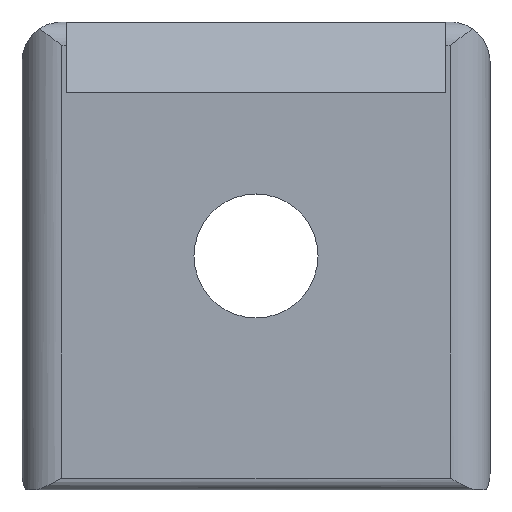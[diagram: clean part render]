
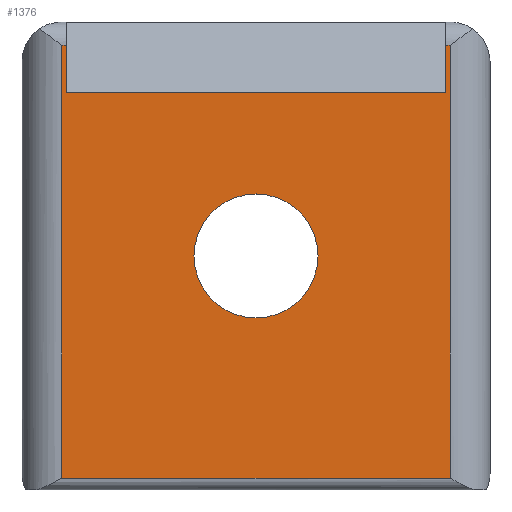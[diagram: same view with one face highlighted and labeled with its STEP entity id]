
A CAD part, top view. The second image highlights one B-rep face of the part: STEP entity #1376.
In plain terms, the highlighted planar face has unit normal (0, 0, 1).
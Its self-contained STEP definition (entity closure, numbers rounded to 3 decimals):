
#2 = FACE_BOUND ( 'NONE', #256, .T. ) ;
#21 = DIRECTION ( 'NONE',  ( -1., 0., 0. ) ) ;
#25 = VECTOR ( 'NONE', #1019, 1000. ) ;
#51 = VERTEX_POINT ( 'NONE', #197 ) ;
#64 = VERTEX_POINT ( 'NONE', #1162 ) ;
#71 = VERTEX_POINT ( 'NONE', #452 ) ;
#75 = ORIENTED_EDGE ( 'NONE', *, *, #799, .T. ) ;
#114 = CARTESIAN_POINT ( 'NONE',  ( -8.1, -3., 0. ) ) ;
#152 = CARTESIAN_POINT ( 'NONE',  ( 8.3, -1., 0. ) ) ;
#155 = ORIENTED_EDGE ( 'NONE', *, *, #1293, .T. ) ;
#172 = VERTEX_POINT ( 'NONE', #1102 ) ;
#190 = EDGE_CURVE ( 'NONE', #827, #298, #478, .T. ) ;
#197 = CARTESIAN_POINT ( 'NONE',  ( -2.65, -10., 0. ) ) ;
#212 = VECTOR ( 'NONE', #1499, 1000. ) ;
#225 = VERTEX_POINT ( 'NONE', #1245 ) ;
#256 = EDGE_LOOP ( 'NONE', ( #75, #1187 ) ) ;
#292 = CARTESIAN_POINT ( 'NONE',  ( 8.1, -3., 0. ) ) ;
#298 = VERTEX_POINT ( 'NONE', #386 ) ;
#306 = EDGE_CURVE ( 'NONE', #929, #225, #1119, .T. ) ;
#316 = ORIENTED_EDGE ( 'NONE', *, *, #945, .T. ) ;
#337 = AXIS2_PLACEMENT_3D ( 'NONE', #888, #1216, #21 ) ;
#386 = CARTESIAN_POINT ( 'NONE',  ( -8.3, -19.5, 0. ) ) ;
#414 = LINE ( 'NONE', #453, #1101 ) ;
#439 = AXIS2_PLACEMENT_3D ( 'NONE', #1025, #1034, #1393 ) ;
#452 = CARTESIAN_POINT ( 'NONE',  ( -8.3, -1., 0. ) ) ;
#453 = CARTESIAN_POINT ( 'NONE',  ( 8.3, -19.5, 0. ) ) ;
#464 = LINE ( 'NONE', #114, #1399 ) ;
#478 = LINE ( 'NONE', #976, #987 ) ;
#482 = ORIENTED_EDGE ( 'NONE', *, *, #1262, .T. ) ;
#493 = EDGE_CURVE ( 'NONE', #71, #298, #788, .T. ) ;
#528 = LINE ( 'NONE', #1016, #212 ) ;
#560 = DIRECTION ( 'NONE',  ( -1., 0., 0. ) ) ;
#562 = DIRECTION ( 'NONE',  ( 0., -1., 0. ) ) ;
#583 = DIRECTION ( 'NONE',  ( 0., 0., 1. ) ) ;
#611 = ORIENTED_EDGE ( 'NONE', *, *, #791, .T. ) ;
#670 = VECTOR ( 'NONE', #1133, 1000. ) ;
#787 = ORIENTED_EDGE ( 'NONE', *, *, #306, .T. ) ;
#788 = LINE ( 'NONE', #1055, #1213 ) ;
#791 = EDGE_CURVE ( 'NONE', #872, #71, #1165, .T. ) ;
#799 = EDGE_CURVE ( 'NONE', #172, #51, #1206, .T. ) ;
#807 = ORIENTED_EDGE ( 'NONE', *, *, #190, .F. ) ;
#827 = VERTEX_POINT ( 'NONE', #1501 ) ;
#830 = DIRECTION ( 'NONE',  ( -1., 0., 0. ) ) ;
#842 = ORIENTED_EDGE ( 'NONE', *, *, #493, .T. ) ;
#855 = VECTOR ( 'NONE', #560, 1000. ) ;
#872 = VERTEX_POINT ( 'NONE', #920 ) ;
#888 = CARTESIAN_POINT ( 'NONE',  ( 0., -10., 0. ) ) ;
#906 = ORIENTED_EDGE ( 'NONE', *, *, #1277, .T. ) ;
#920 = CARTESIAN_POINT ( 'NONE',  ( -8.1, -1., 0. ) ) ;
#929 = VERTEX_POINT ( 'NONE', #1088 ) ;
#945 = EDGE_CURVE ( 'NONE', #64, #1385, #464, .T. ) ;
#976 = CARTESIAN_POINT ( 'NONE',  ( -8.3, -19.5, 0. ) ) ;
#987 = VECTOR ( 'NONE', #830, 1000. ) ;
#1016 = CARTESIAN_POINT ( 'NONE',  ( -8.1, -1., 0. ) ) ;
#1018 = CARTESIAN_POINT ( 'NONE',  ( -8.1, -1., 0. ) ) ;
#1019 = DIRECTION ( 'NONE',  ( -1., 0., 0. ) ) ;
#1025 = CARTESIAN_POINT ( 'NONE',  ( 0., -10., 0. ) ) ;
#1034 = DIRECTION ( 'NONE',  ( 0., 0., -1. ) ) ;
#1055 = CARTESIAN_POINT ( 'NONE',  ( -8.3, -1., 0. ) ) ;
#1060 = CARTESIAN_POINT ( 'NONE',  ( -8.3, -19.5, 0. ) ) ;
#1066 = PLANE ( 'NONE',  #1149 ) ;
#1082 = EDGE_CURVE ( 'NONE', #51, #172, #1153, .T. ) ;
#1088 = CARTESIAN_POINT ( 'NONE',  ( 8.3, -1., 0. ) ) ;
#1101 = VECTOR ( 'NONE', #1408, 1000. ) ;
#1102 = CARTESIAN_POINT ( 'NONE',  ( 2.65, -10., 0. ) ) ;
#1119 = LINE ( 'NONE', #152, #25 ) ;
#1133 = DIRECTION ( 'NONE',  ( 0., -1., 0. ) ) ;
#1149 = AXIS2_PLACEMENT_3D ( 'NONE', #1060, #583, #1555 ) ;
#1153 = CIRCLE ( 'NONE', #337, 2.65 ) ;
#1162 = CARTESIAN_POINT ( 'NONE',  ( 8.1, -3., 0. ) ) ;
#1165 = LINE ( 'NONE', #1018, #855 ) ;
#1187 = ORIENTED_EDGE ( 'NONE', *, *, #1082, .T. ) ;
#1206 = CIRCLE ( 'NONE', #439, 2.65 ) ;
#1209 = EDGE_LOOP ( 'NONE', ( #482, #316, #906, #611, #842, #807, #155, #787 ) ) ;
#1213 = VECTOR ( 'NONE', #562, 1000. ) ;
#1216 = DIRECTION ( 'NONE',  ( 0., 0., -1. ) ) ;
#1245 = CARTESIAN_POINT ( 'NONE',  ( 8.1, -1., 0. ) ) ;
#1262 = EDGE_CURVE ( 'NONE', #225, #64, #1369, .T. ) ;
#1277 = EDGE_CURVE ( 'NONE', #1385, #872, #528, .T. ) ;
#1290 = CARTESIAN_POINT ( 'NONE',  ( -8.1, -3., 0. ) ) ;
#1293 = EDGE_CURVE ( 'NONE', #827, #929, #414, .T. ) ;
#1369 = LINE ( 'NONE', #292, #670 ) ;
#1376 = ADVANCED_FACE ( 'NONE', ( #1416, #2 ), #1066, .T. ) ;
#1385 = VERTEX_POINT ( 'NONE', #1290 ) ;
#1393 = DIRECTION ( 'NONE',  ( -1., 0., 0. ) ) ;
#1399 = VECTOR ( 'NONE', #1446, 1000. ) ;
#1408 = DIRECTION ( 'NONE',  ( 0., 1., 0. ) ) ;
#1416 = FACE_OUTER_BOUND ( 'NONE', #1209, .T. ) ;
#1446 = DIRECTION ( 'NONE',  ( -1., 0., 0. ) ) ;
#1499 = DIRECTION ( 'NONE',  ( 0., 1., 0. ) ) ;
#1501 = CARTESIAN_POINT ( 'NONE',  ( 8.3, -19.5, 0. ) ) ;
#1555 = DIRECTION ( 'NONE',  ( 1., 0., 0. ) ) ;
